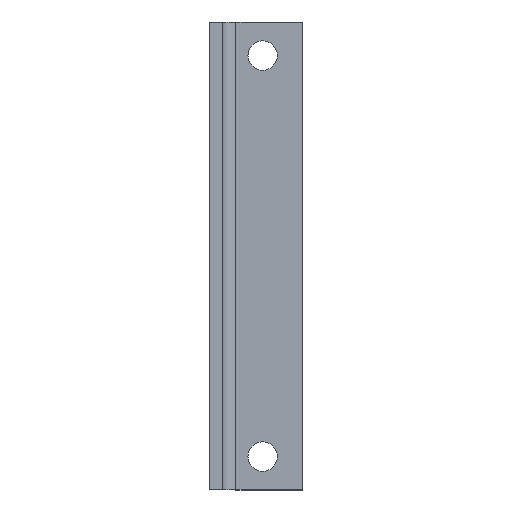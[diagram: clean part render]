
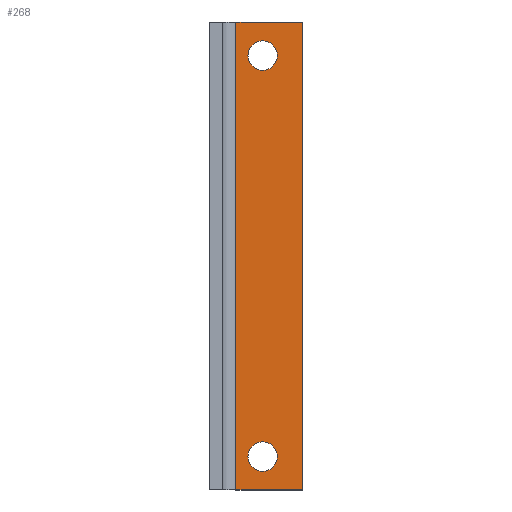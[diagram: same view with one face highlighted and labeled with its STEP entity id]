
A CAD part, top view. The second image highlights one B-rep face of the part: STEP entity #268.
In plain terms, the highlighted planar face has unit normal (0, 0, 1).
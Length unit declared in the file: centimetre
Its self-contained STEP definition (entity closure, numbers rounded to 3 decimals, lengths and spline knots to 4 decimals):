
#17=FACE_BOUND('',#65,.T.);
#18=FACE_BOUND('',#66,.T.);
#30=PLANE('',#306);
#46=FACE_OUTER_BOUND('',#64,.T.);
#64=EDGE_LOOP('',(#243,#244,#245,#246));
#65=EDGE_LOOP('',(#247));
#66=EDGE_LOOP('',(#248));
#84=LINE('',#435,#110);
#87=LINE('',#442,#113);
#90=LINE('',#449,#116);
#92=LINE('',#452,#118);
#110=VECTOR('',#362,1.);
#113=VECTOR('',#369,1.);
#116=VECTOR('',#376,1.);
#118=VECTOR('',#380,1.);
#120=CIRCLE('',#285,0.11);
#122=CIRCLE('',#288,0.11);
#128=VERTEX_POINT('',#387);
#130=VERTEX_POINT('',#393);
#140=VERTEX_POINT('',#421);
#141=VERTEX_POINT('',#425);
#144=VERTEX_POINT('',#440);
#146=VERTEX_POINT('',#448);
#149=EDGE_CURVE('',#128,#128,#120,.T.);
#152=EDGE_CURVE('',#130,#130,#122,.T.);
#172=EDGE_CURVE('',#140,#141,#84,.T.);
#175=EDGE_CURVE('',#141,#144,#87,.T.);
#178=EDGE_CURVE('',#146,#140,#90,.T.);
#180=EDGE_CURVE('',#144,#146,#92,.T.);
#243=ORIENTED_EDGE('',*,*,#172,.T.);
#244=ORIENTED_EDGE('',*,*,#175,.T.);
#245=ORIENTED_EDGE('',*,*,#180,.T.);
#246=ORIENTED_EDGE('',*,*,#178,.T.);
#247=ORIENTED_EDGE('',*,*,#149,.T.);
#248=ORIENTED_EDGE('',*,*,#152,.T.);
#268=ADVANCED_FACE('',(#46,#17,#18),#30,.T.);
#285=AXIS2_PLACEMENT_3D('',#389,#314,#315);
#288=AXIS2_PLACEMENT_3D('',#395,#321,#322);
#306=AXIS2_PLACEMENT_3D('',#453,#381,#382);
#314=DIRECTION('center_axis',(0.,0.,-1.));
#315=DIRECTION('ref_axis',(1.,0.,0.));
#321=DIRECTION('center_axis',(0.,0.,-1.));
#322=DIRECTION('ref_axis',(1.,0.,0.));
#362=DIRECTION('',(0.,-1.,0.));
#369=DIRECTION('',(1.,0.,0.));
#376=DIRECTION('',(-1.,0.,0.));
#380=DIRECTION('',(0.,1.,0.));
#381=DIRECTION('center_axis',(0.,0.,1.));
#382=DIRECTION('ref_axis',(1.,0.,0.));
#387=CARTESIAN_POINT('',(-0.11,-1.5,0.1));
#389=CARTESIAN_POINT('Origin',(0.,-1.5,0.1));
#393=CARTESIAN_POINT('',(-0.11,1.5,0.1));
#395=CARTESIAN_POINT('Origin',(0.,1.5,0.1));
#421=CARTESIAN_POINT('',(-0.2,1.75,0.1));
#425=CARTESIAN_POINT('',(-0.2,-1.75,0.1));
#435=CARTESIAN_POINT('',(-0.2,0.875,0.1));
#440=CARTESIAN_POINT('',(0.3,-1.75,0.1));
#442=CARTESIAN_POINT('',(-0.4,-1.75,0.1));
#448=CARTESIAN_POINT('',(0.3,1.75,0.1));
#449=CARTESIAN_POINT('',(0.3,1.75,0.1));
#452=CARTESIAN_POINT('',(0.3,-1.75,0.1));
#453=CARTESIAN_POINT('Origin',(-0.05,0.,0.1));
